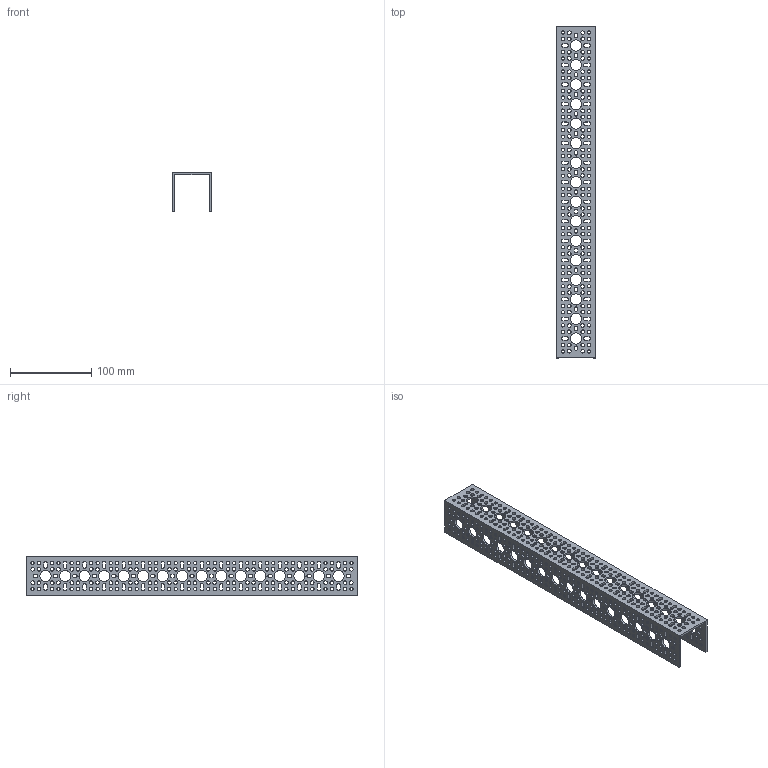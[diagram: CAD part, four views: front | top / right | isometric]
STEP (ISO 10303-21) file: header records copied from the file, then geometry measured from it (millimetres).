
FILE_DESCRIPTION (( 'STEP AP203' ), '1' );
FILE_NAME ('1100-0016-0408 rev1.STEP', '2017-05-12T21:16:03', ( '' ), ( '' ), 'SwSTEP 2.0', 'SolidWorks 2016', '' );
FILE_SCHEMA (( 'CONFIG_CONTROL_DESIGN' ));
Products named in the file (1): 1100-0016-0408 rev1
Bounding box: 48 x 408 x 48 mm (x, y, z)
Volume: 99272.7 mm3; surface area: 108166.3 mm2
Topology: 1 solids, 1 shells, 2170 faces, 6504 edges, 4336 vertices
Faces by surface type: cylinder 1458, plane 712
Entity records: 76973 total; most frequent: DIRECTION 13762, CARTESIAN_POINT 13011, ORIENTED_EDGE 13008, EDGE_CURVE 6504, AXIS2_PLACEMENT_3D 5087, VERTEX_POINT 4336, LINE 3588, VECTOR 3588
